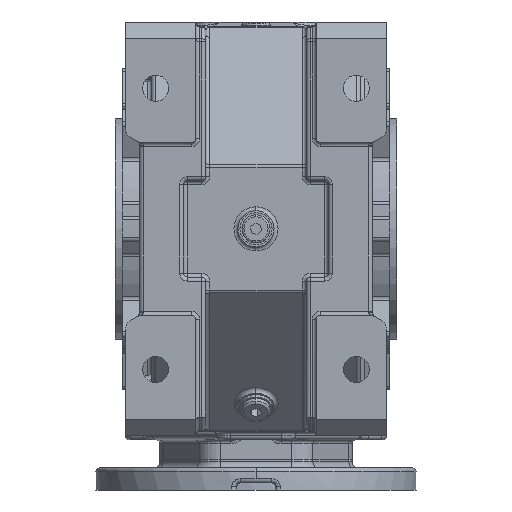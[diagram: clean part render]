
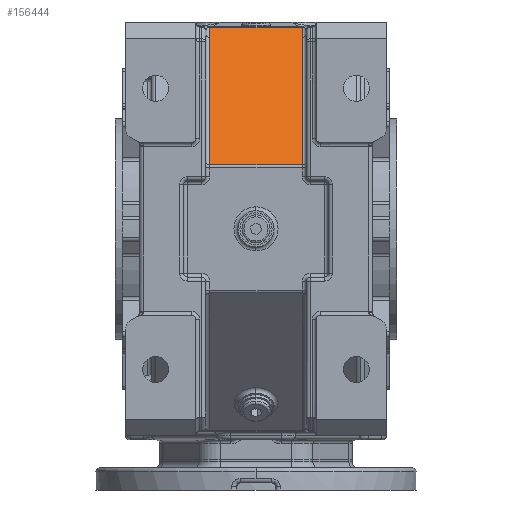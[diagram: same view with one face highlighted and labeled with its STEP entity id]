
A CAD part, front view. The second image highlights one B-rep face of the part: STEP entity #156444.
In plain terms, the highlighted planar face has unit normal (0, -0.707, 0.707).
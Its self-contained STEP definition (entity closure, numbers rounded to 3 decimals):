
#34675 = DIRECTION ( 'NONE',  ( 0., 0.707, 0.707 ) ) ;
#34676 = DIRECTION ( 'NONE',  ( 0., 0.707, -0.707 ) ) ;
#34677 = CARTESIAN_POINT ( 'NONE',  ( 43., -31.279, 96. ) ) ;
#34678 = AXIS2_PLACEMENT_3D ( 'NONE', #34677, #34676, #34675 ) ;
#34679 = PLANE ( 'NONE',  #34678 ) ;
#34680 = FACE_OUTER_BOUND ( 'NONE', #154842, .T. ) ;
#50284 = DIRECTION ( 'NONE',  ( 1., 0., 0. ) ) ;
#50285 = VECTOR ( 'NONE', #50284, 1000. ) ;
#50286 = CARTESIAN_POINT ( 'NONE',  ( 43., -95.414, 31.865 ) ) ;
#50287 = LINE ( 'NONE', #50286, #50285 ) ;
#50298 = CARTESIAN_POINT ( 'NONE',  ( -23., -95.414, 31.865 ) ) ;
#50299 = DIRECTION ( 'NONE',  ( 0., -0.707, -0.707 ) ) ;
#50300 = VECTOR ( 'NONE', #50299, 1000. ) ;
#50301 = CARTESIAN_POINT ( 'NONE',  ( -23., -31.279, 96. ) ) ;
#50302 = LINE ( 'NONE', #50301, #50300 ) ;
#50303 = CARTESIAN_POINT ( 'NONE',  ( -23., -31.865, 95.414 ) ) ;
#50304 = DIRECTION ( 'NONE',  ( 0., -0.707, -0.707 ) ) ;
#50305 = VECTOR ( 'NONE', #50304, 1000. ) ;
#50306 = CARTESIAN_POINT ( 'NONE',  ( -23., -31.279, 96. ) ) ;
#50307 = LINE ( 'NONE', #50306, #50305 ) ;
#50308 = CARTESIAN_POINT ( 'NONE',  ( -23., -26.865, 100.414 ) ) ;
#50309 = DIRECTION ( 'NONE',  ( -1., 0., 0. ) ) ;
#50310 = VECTOR ( 'NONE', #50309, 1000. ) ;
#50311 = CARTESIAN_POINT ( 'NONE',  ( 43., -26.865, 100.414 ) ) ;
#50312 = LINE ( 'NONE', #50311, #50310 ) ;
#50313 = CARTESIAN_POINT ( 'NONE',  ( 23., -26.865, 100.414 ) ) ;
#50314 = DIRECTION ( 'NONE',  ( 0., 0.707, 0.707 ) ) ;
#50315 = VECTOR ( 'NONE', #50314, 1000. ) ;
#50316 = CARTESIAN_POINT ( 'NONE',  ( 23., -31.279, 96. ) ) ;
#50317 = LINE ( 'NONE', #50316, #50315 ) ;
#50318 = CARTESIAN_POINT ( 'NONE',  ( 23., -31.865, 95.414 ) ) ;
#50319 = CARTESIAN_POINT ( 'NONE',  ( 23., -95.414, 31.865 ) ) ;
#50320 = DIRECTION ( 'NONE',  ( 0., 0.707, 0.707 ) ) ;
#50321 = VECTOR ( 'NONE', #50320, 1000. ) ;
#50322 = CARTESIAN_POINT ( 'NONE',  ( 23., -31.279, 96. ) ) ;
#50323 = LINE ( 'NONE', #50322, #50321 ) ;
#116405 = ORIENTED_EDGE ( 'NONE', *, *, #116407, .T. ) ;
#116407 = EDGE_CURVE ( 'NONE', #116450, #116433, #50287, .T. ) ;
#116429 = ORIENTED_EDGE ( 'NONE', *, *, #116431, .T. ) ;
#116431 = EDGE_CURVE ( 'NONE', #116433, #116435, #50323, .T. ) ;
#116433 = VERTEX_POINT ( 'NONE', #50319 ) ;
#116435 = VERTEX_POINT ( 'NONE', #50318 ) ;
#116437 = ORIENTED_EDGE ( 'NONE', *, *, #116439, .T. ) ;
#116439 = EDGE_CURVE ( 'NONE', #116435, #116440, #50317, .T. ) ;
#116440 = VERTEX_POINT ( 'NONE', #50313 ) ;
#116441 = ORIENTED_EDGE ( 'NONE', *, *, #116442, .T. ) ;
#116442 = EDGE_CURVE ( 'NONE', #116440, #116443, #50312, .T. ) ;
#116443 = VERTEX_POINT ( 'NONE', #50308 ) ;
#116444 = ORIENTED_EDGE ( 'NONE', *, *, #116446, .T. ) ;
#116446 = EDGE_CURVE ( 'NONE', #116443, #116447, #50307, .T. ) ;
#116447 = VERTEX_POINT ( 'NONE', #50303 ) ;
#116448 = ORIENTED_EDGE ( 'NONE', *, *, #116449, .T. ) ;
#116449 = EDGE_CURVE ( 'NONE', #116447, #116450, #50302, .T. ) ;
#116450 = VERTEX_POINT ( 'NONE', #50298 ) ;
#154842 = EDGE_LOOP ( 'NONE', ( #116429, #116437, #116441, #116444, #116448, #116405 ) ) ;
#156444 = ADVANCED_FACE ( 'NONE', ( #34680 ), #34679, .F. ) ;
